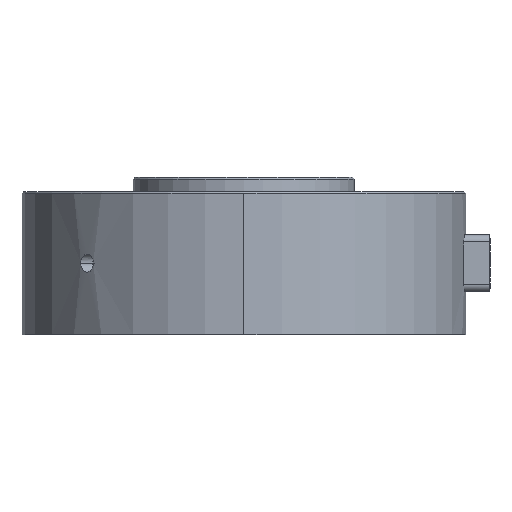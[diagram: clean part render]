
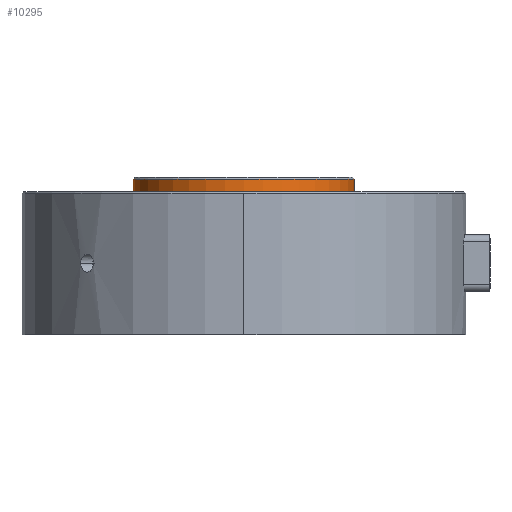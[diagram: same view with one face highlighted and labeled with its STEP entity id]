
A CAD part, front view. The second image highlights one B-rep face of the part: STEP entity #10295.
In plain terms, the highlighted cylindrical face has radius 98.133 mm (diameter 196.266 mm), a partial arc.
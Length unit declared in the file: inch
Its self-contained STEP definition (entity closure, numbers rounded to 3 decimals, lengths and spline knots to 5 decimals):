
#851 = CIRCLE ( 'NONE', #852, 3.8635 ) ;
#852 = AXIS2_PLACEMENT_3D ( 'NONE', #853, #854, #855 ) ;
#853 = CARTESIAN_POINT ( 'NONE',  ( 0., 0., 0.44 ) ) ;
#854 = DIRECTION ( 'NONE',  ( 0., 0., 1. ) ) ;
#855 = DIRECTION ( 'NONE',  ( -1., 0., 0. ) ) ;
#1826 = CARTESIAN_POINT ( 'NONE',  ( -3.8635, 0., 0.44 ) ) ;
#1894 = FACE_OUTER_BOUND ( 'NONE', #10030, .T. ) ;
#1895 = CYLINDRICAL_SURFACE ( 'NONE', #1896, 3.8635 ) ;
#1896 = AXIS2_PLACEMENT_3D ( 'NONE', #1903, #1904, #1905 ) ;
#1903 = CARTESIAN_POINT ( 'NONE',  ( 0., 0., 0.44 ) ) ;
#1904 = DIRECTION ( 'NONE',  ( 0., 0., -1. ) ) ;
#1905 = DIRECTION ( 'NONE',  ( -1., 0., 0. ) ) ;
#2043 = CARTESIAN_POINT ( 'NONE',  ( 3.8635, 0., 0.44 ) ) ;
#4278 = CIRCLE ( 'NONE', #4279, 3.8635 ) ;
#4279 = AXIS2_PLACEMENT_3D ( 'NONE', #4280, #4281, #4282 ) ;
#4280 = CARTESIAN_POINT ( 'NONE',  ( 0., 0., 0. ) ) ;
#4281 = DIRECTION ( 'NONE',  ( 0., 0., 1. ) ) ;
#4282 = DIRECTION ( 'NONE',  ( -1., 0., 0. ) ) ;
#5761 = LINE ( 'NONE', #5762, #5763 ) ;
#5762 = CARTESIAN_POINT ( 'NONE',  ( -3.8635, 0., 0.44 ) ) ;
#5763 = VECTOR ( 'NONE', #5764, 39.37008 ) ;
#5764 = DIRECTION ( 'NONE',  ( 0., 0., -1. ) ) ;
#6100 = ORIENTED_EDGE ( 'NONE', *, *, #9201, .F. ) ;
#6285 = CARTESIAN_POINT ( 'NONE',  ( -3.8635, 0., 0. ) ) ;
#6792 = CARTESIAN_POINT ( 'NONE',  ( 3.8635, 0., 0. ) ) ;
#6888 = LINE ( 'NONE', #6889, #6890 ) ;
#6889 = CARTESIAN_POINT ( 'NONE',  ( 3.8635, 0., 0.44 ) ) ;
#6890 = VECTOR ( 'NONE', #6891, 39.37008 ) ;
#6891 = DIRECTION ( 'NONE',  ( 0., 0., -1. ) ) ;
#7596 = VERTEX_POINT ( 'NONE', #1826 ) ;
#7644 = VERTEX_POINT ( 'NONE', #2043 ) ;
#8164 = EDGE_CURVE ( 'NONE', #8906, #9148, #4278, .T. ) ;
#8238 = ORIENTED_EDGE ( 'NONE', *, *, #8164, .T. ) ;
#8699 = EDGE_CURVE ( 'NONE', #7596, #8906, #5761, .T. ) ;
#8906 = VERTEX_POINT ( 'NONE', #6285 ) ;
#9148 = VERTEX_POINT ( 'NONE', #6792 ) ;
#9201 = EDGE_CURVE ( 'NONE', #7644, #9148, #6888, .T. ) ;
#9490 = EDGE_CURVE ( 'NONE', #7596, #7644, #851, .T. ) ;
#10030 = EDGE_LOOP ( 'NONE', ( #6100, #11759, #11271, #8238 ) ) ;
#10295 = ADVANCED_FACE ( 'NONE', ( #1894 ), #1895, .T. ) ;
#11271 = ORIENTED_EDGE ( 'NONE', *, *, #8699, .T. ) ;
#11759 = ORIENTED_EDGE ( 'NONE', *, *, #9490, .F. ) ;
